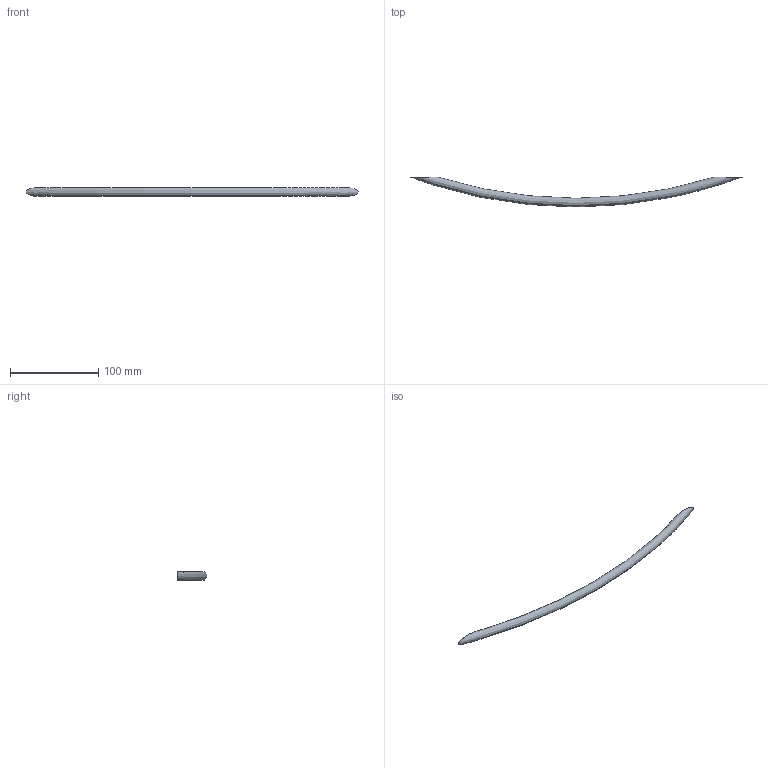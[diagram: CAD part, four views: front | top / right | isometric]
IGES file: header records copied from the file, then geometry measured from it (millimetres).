
Start section: Data from Parasolid IGES Translator 15.0.47, Copyright(c) 2006 Siemens P LM Software. All Rights Reserved.
Global section: file name:  9070481.igs; native system:  By UGS Corp.; preprocessor: XPlus GENERIC/IGES 3.0; author: Noname; organization: Noname; date: 20140122.155225; units: millimetre
Bounding box: 376 x 33.93 x 10 mm (x, y, z)
Surface area: 11703.2 mm2 (no closed solid volume)
Topology: 0 solids, 0 shells, 7 faces, 18 edges, 14 vertices
Faces by surface type: extrusion 4, revolution 3
